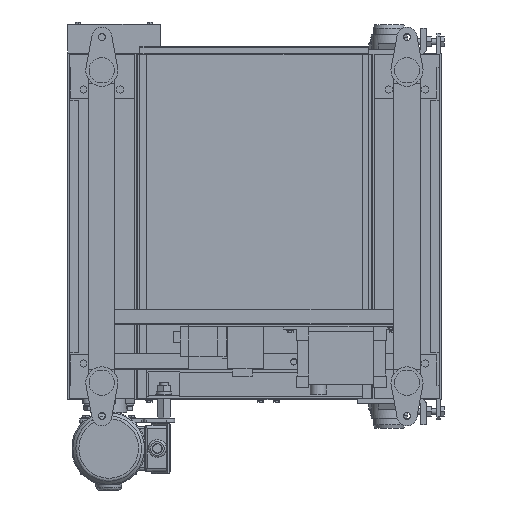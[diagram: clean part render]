
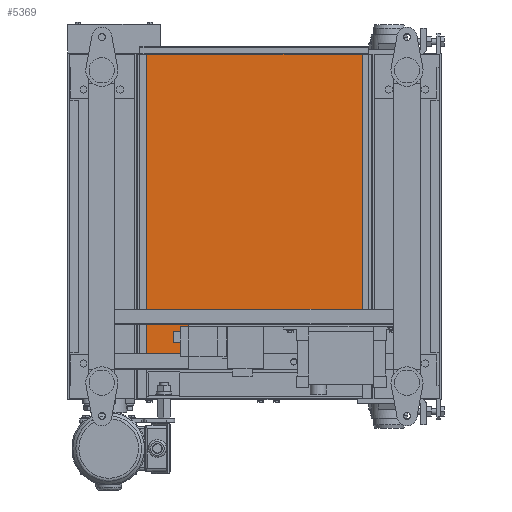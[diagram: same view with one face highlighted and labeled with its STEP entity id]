
A CAD part, front view. The second image highlights one B-rep face of the part: STEP entity #5369.
In plain terms, the highlighted planar face has unit normal (0, -1, 0).
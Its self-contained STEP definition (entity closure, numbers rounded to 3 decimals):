
#5369=ADVANCED_FACE('',(#29475),#29474,.F.);
#29474=PLANE('',#43736);
#29475=FACE_OUTER_BOUND('',#43737,.T.);
#43733=CARTESIAN_POINT('',(127.5,-165.,-271.));
#43734=DIRECTION('',(0.,1.,0.));
#43735=DIRECTION('',(0.,0.,1.));
#43736=AXIS2_PLACEMENT_3D('',#43733,#43734,#43735);
#43737=EDGE_LOOP('',(#56380,#56381,#56382,#56383));
#56380=ORIENTED_EDGE('',*,*,#62982,.F.);
#56381=ORIENTED_EDGE('',*,*,#62988,.F.);
#56382=ORIENTED_EDGE('',*,*,#62989,.F.);
#56383=ORIENTED_EDGE('',*,*,#62990,.F.);
#62982=EDGE_CURVE('',#103652,#103653,#103654,.T.);
#62988=EDGE_CURVE('',#103691,#103652,#103692,.T.);
#62989=EDGE_CURVE('',#103698,#103691,#103699,.T.);
#62990=EDGE_CURVE('',#103653,#103698,#103705,.T.);
#103652=VERTEX_POINT('',#130462);
#103653=VERTEX_POINT('',#130463);
#103654=LINE('',#130464,#130465);
#103691=VERTEX_POINT('',#130483);
#103692=LINE('',#130484,#130485);
#103698=VERTEX_POINT('',#130487);
#103699=LINE('',#130488,#130489);
#103705=LINE('',#130491,#130492);
#130462=CARTESIAN_POINT('',(137.5,-165.,-261.));
#130463=CARTESIAN_POINT('',(137.5,-165.,328.2));
#130464=CARTESIAN_POINT('',(137.5,-165.,-261.));
#130465=VECTOR('',#130466,589.2);
#130466=DIRECTION('',(0.,0.,1.));
#130483=CARTESIAN_POINT('',(572.5,-165.,-261.));
#130484=CARTESIAN_POINT('',(572.5,-165.,-261.));
#130485=VECTOR('',#130486,435.);
#130486=DIRECTION('',(-1.,0.,0.));
#130487=CARTESIAN_POINT('',(572.5,-165.,328.2));
#130488=CARTESIAN_POINT('',(572.5,-165.,328.2));
#130489=VECTOR('',#130490,589.2);
#130490=DIRECTION('',(0.,0.,-1.));
#130491=CARTESIAN_POINT('',(137.5,-165.,328.2));
#130492=VECTOR('',#130493,435.);
#130493=DIRECTION('',(1.,0.,0.));
